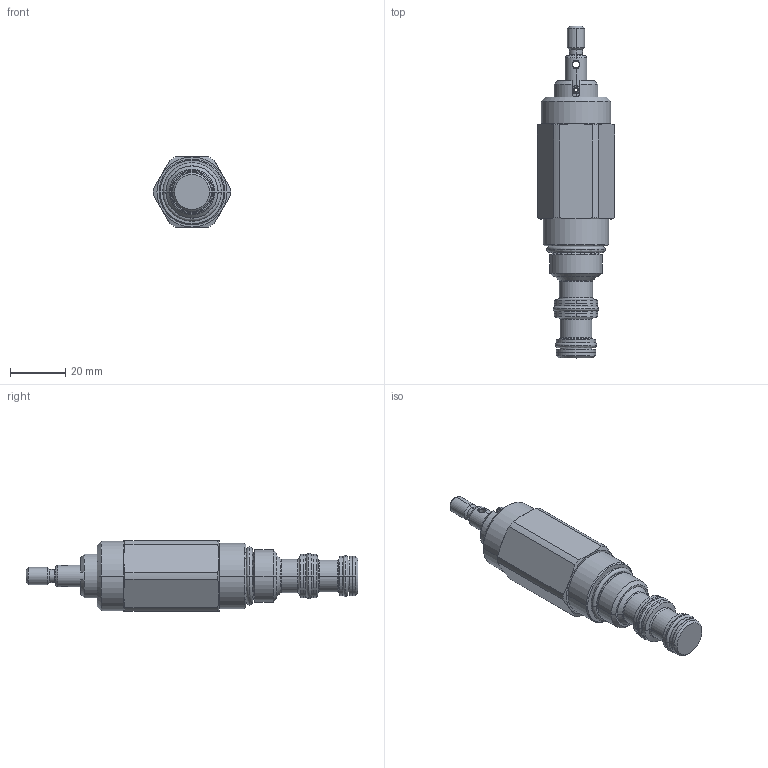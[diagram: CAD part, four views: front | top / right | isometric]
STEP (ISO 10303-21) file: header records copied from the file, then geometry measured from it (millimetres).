
FILE_DESCRIPTION((''),'2;1');
FILE_NAME('MP08-3XR','2009-02-04T',('jcs'),(''),'PRO/ENGINEER BY PARAMETRIC TECHNOLOGY CORPORATION, 2008010','PRO/ENGINEER BY PARAMETRIC TECHNOLOGY CORPORATION, 2008010','');
FILE_SCHEMA(('CONFIG_CONTROL_DESIGN'));
Length unit declared in the file: inch
Products named in the file (1): MP08-3XR
Bounding box: 28.04 x 120.32 x 25.4 mm (x, y, z)
Volume: 37156.9 mm3; surface area: 10214 mm2
Topology: 4 solids, 4 shells, 198 faces, 453 edges, 270 vertices
Faces by surface type: cylinder 58, cone 47, plane 47, revolution 24, torus 22
Entity records: 6451 total; most frequent: CARTESIAN_POINT 1913, DIRECTION 979, ORIENTED_EDGE 906, EDGE_CURVE 453, AXIS2_PLACEMENT_3D 406, VERTEX_POINT 270, CIRCLE 232, EDGE_LOOP 215
